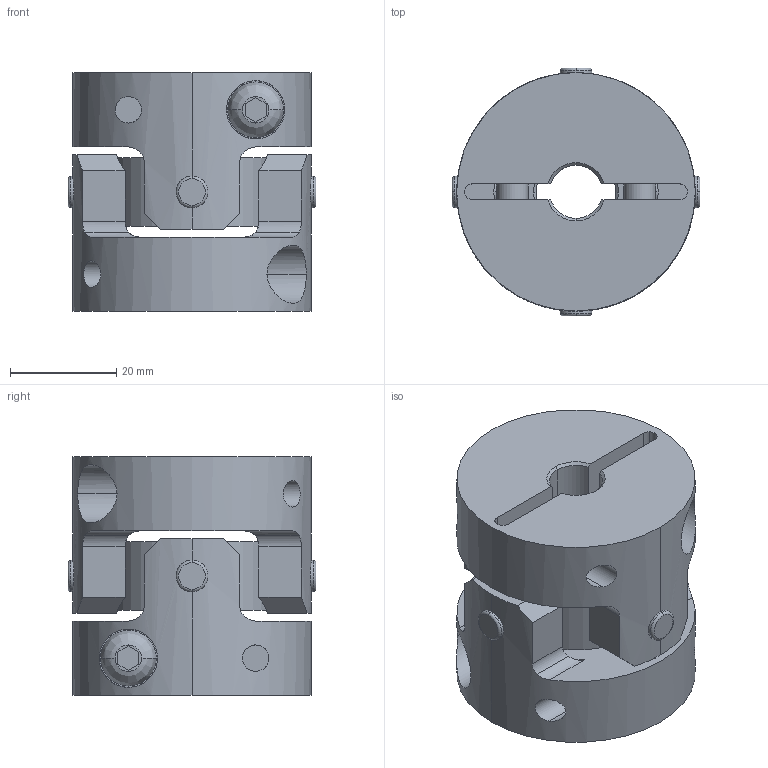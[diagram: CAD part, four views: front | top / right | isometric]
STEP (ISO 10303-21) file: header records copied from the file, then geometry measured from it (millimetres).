
FILE_DESCRIPTION((''),'2;1');
FILE_NAME('UA-45C-10×15.stp','2013-05-22T10:29:06',(''),(''),'AutoCAD STEP 2000i','AutoCAD 2000i',', , ');
FILE_SCHEMA(('CONFIG_CONTROL_DESIGN'));
Length unit declared in the file: millimetre
Products named in the file (6): UA-45C-8×8; 忣兜1; UA-4502-D08-1; BTN-M6; UA-4502-D08; UA45-SEN
Assembly tree (6 placements, depth 3):
  UA-45C-8×8
    忣兜1
    UA-4502-D08-1
      BTN-M6
    UA-4502-D08
      BTN-M6
    UA45-SEN
Bounding box: 46.73 x 46.73 x 45 mm (x, y, z)
Volume: 49906.5 mm3; surface area: 20226.6 mm2
Topology: 1 solids, 1 shells, 206 faces, 554 edges, 364 vertices
Faces by surface type: cylinder 96, plane 78, cone 16, bspline 8, torus 8
Entity records: 8523 total; most frequent: CARTESIAN_POINT 3207, ORIENTED_EDGE 1108, DIRECTION 1064, EDGE_CURVE 554, AXIS2_PLACEMENT_3D 409, VERTEX_POINT 364, VECTOR 246, LINE 246
